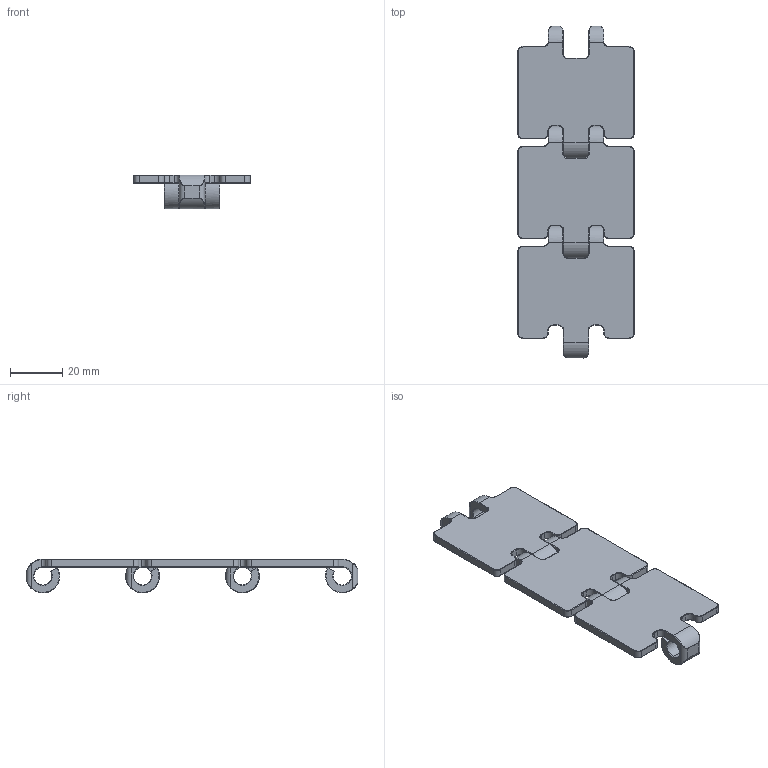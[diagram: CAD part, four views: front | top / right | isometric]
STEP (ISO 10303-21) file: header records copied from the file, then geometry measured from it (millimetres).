
FILE_DESCRIPTION(('STEP AP214'),'1');
FILE_NAME('P10210118_01','2017-03-07T09:08:32',('dentellad'),(' '),'Spatial InterOp 3D',' ',' ');
FILE_SCHEMA(('automotive_design'));
Length unit declared in the file: millimetre
Products named in the file (1): 1
Bounding box: 44.45 x 126.7 x 12.9 mm (x, y, z)
Volume: 18780.3 mm3; surface area: 14716.1 mm2
Topology: 1 solids, 1 shells, 523 faces, 1283 edges, 742 vertices
Faces by surface type: cylinder 213, torus 171, plane 91, bspline 48
Entity records: 31522 total; most frequent: CARTESIAN_POINT 8974, DIRECTION 2664, ORIENTED_EDGE 2566, STYLED_ITEM 1756, PRESENTATION_STYLE_ASSIGNMENT 1756, COLOUR_RGB 1756, EDGE_CURVE 1283, CURVE_STYLE 1232
